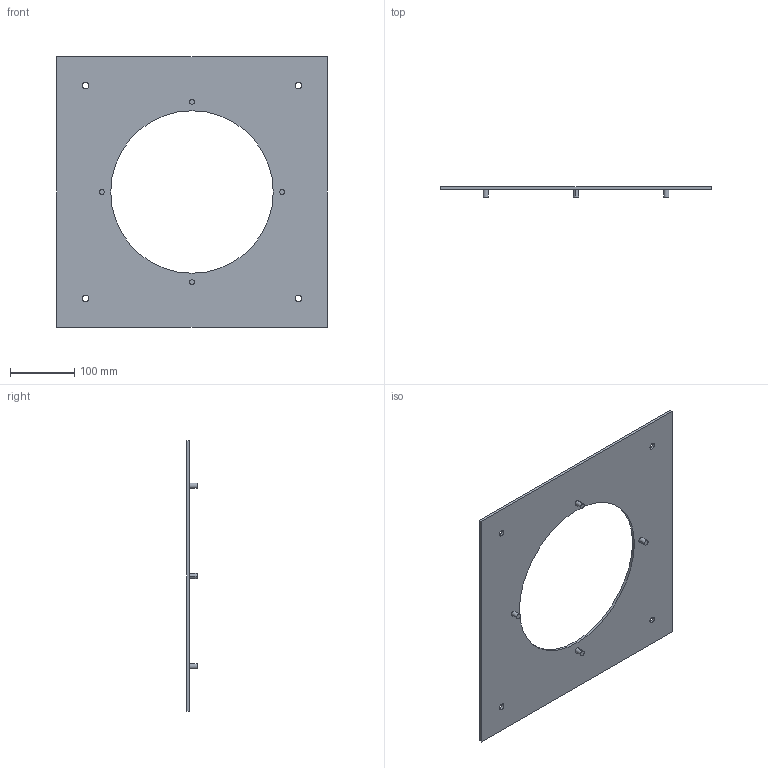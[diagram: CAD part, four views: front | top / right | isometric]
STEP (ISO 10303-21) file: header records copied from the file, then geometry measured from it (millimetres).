
FILE_DESCRIPTION(('STEP AP214'),'1');
FILE_NAME('accessory_5136822300.stp','2017-10-10T13:29:03',('TraceParts'),('TraceParts S.A.'),'Spatial InterOp 3D',' ',' ');
FILE_SCHEMA(('automotive_design'));
Length unit declared in the file: millimetre
Products named in the file (1): accessory_5136822300
Bounding box: 419 x 16 x 419 mm (x, y, z)
Volume: 503896.4 mm3; surface area: 262321.6 mm2
Topology: 1 solids, 1 shells, 28 faces, 66 edges, 44 vertices
Faces by surface type: cylinder 18, plane 10
Entity records: 1086 total; most frequent: DIRECTION 160, CARTESIAN_POINT 139, ORIENTED_EDGE 132, EDGE_CURVE 66, AXIS2_PLACEMENT_3D 65, VERTEX_POINT 44, EDGE_LOOP 42, CIRCLE 36
